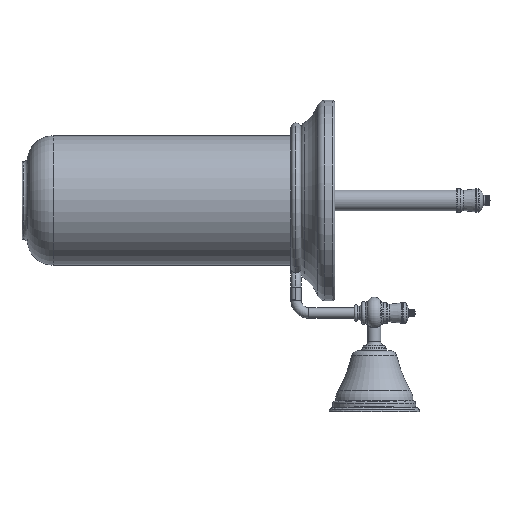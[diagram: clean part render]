
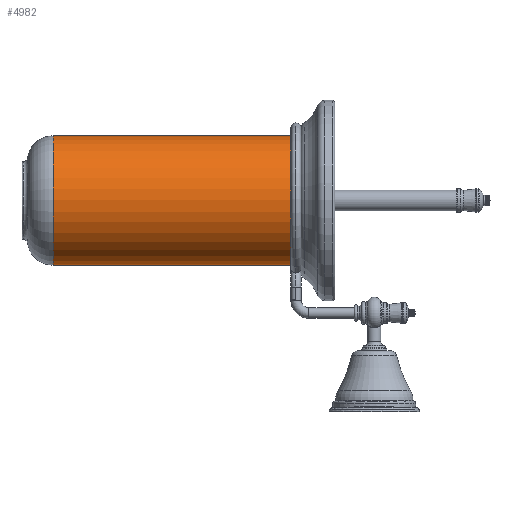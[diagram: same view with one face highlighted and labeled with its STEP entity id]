
A CAD part, top view. The second image highlights one B-rep face of the part: STEP entity #4982.
In plain terms, the highlighted cylindrical face has radius 50 mm (diameter 100 mm), a partial arc.
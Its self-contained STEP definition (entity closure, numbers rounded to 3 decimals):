
#4587=CARTESIAN_POINT('',(-60.55,163.328,0.));
#4588=DIRECTION('',(-1.,0.,0.));
#4589=DIRECTION('',(0.,-1.,0.));
#4590=AXIS2_PLACEMENT_3D('',#4587,#4588,#4589);
#4592=CARTESIAN_POINT('',(-248.55,163.328,0.));
#4593=DIRECTION('',(1.,0.,0.));
#4594=DIRECTION('',(0.,1.,0.));
#4595=AXIS2_PLACEMENT_3D('',#4592,#4593,#4594);
#4622=DIRECTION('',(1.,0.,0.));
#4623=VECTOR('',#4622,188.);
#4624=CARTESIAN_POINT('',(-248.55,213.328,0.));
#4625=LINE('',#4624,#4623);
#4631=DIRECTION('',(1.,0.,0.));
#4632=VECTOR('',#4631,188.);
#4633=CARTESIAN_POINT('',(-248.55,113.328,0.));
#4634=LINE('',#4633,#4632);
#4903=CARTESIAN_POINT('',(-60.55,213.328,0.));
#4904=CARTESIAN_POINT('',(-60.55,113.328,0.));
#4905=VERTEX_POINT('',#4903);
#4906=VERTEX_POINT('',#4904);
#4947=CARTESIAN_POINT('',(-248.55,113.328,0.));
#4948=VERTEX_POINT('',#4947);
#4949=CARTESIAN_POINT('',(-248.55,213.328,0.));
#4950=VERTEX_POINT('',#4949);
#4967=CARTESIAN_POINT('',(-18.65,163.328,0.));
#4968=DIRECTION('',(-1.,0.,0.));
#4969=DIRECTION('',(0.,1.,0.));
#4970=AXIS2_PLACEMENT_3D('',#4967,#4968,#4969);
#4971=CYLINDRICAL_SURFACE('',#4970,50.);
#4973=ORIENTED_EDGE('',*,*,#4972,.F.);
#4975=ORIENTED_EDGE('',*,*,#4974,.F.);
#4977=ORIENTED_EDGE('',*,*,#4976,.F.);
#4979=ORIENTED_EDGE('',*,*,#4978,.T.);
#4980=EDGE_LOOP('',(#4973,#4975,#4977,#4979));
#4981=FACE_OUTER_BOUND('',#4980,.F.);
#4982=ADVANCED_FACE('',(#4981),#4971,.T.);
#4591=CIRCLE('',#4590,50.);
#4596=CIRCLE('',#4595,50.);
#4972=EDGE_CURVE('',#4906,#4905,#4591,.T.);
#4974=EDGE_CURVE('',#4948,#4906,#4634,.T.);
#4976=EDGE_CURVE('',#4950,#4948,#4596,.T.);
#4978=EDGE_CURVE('',#4950,#4905,#4625,.T.);
